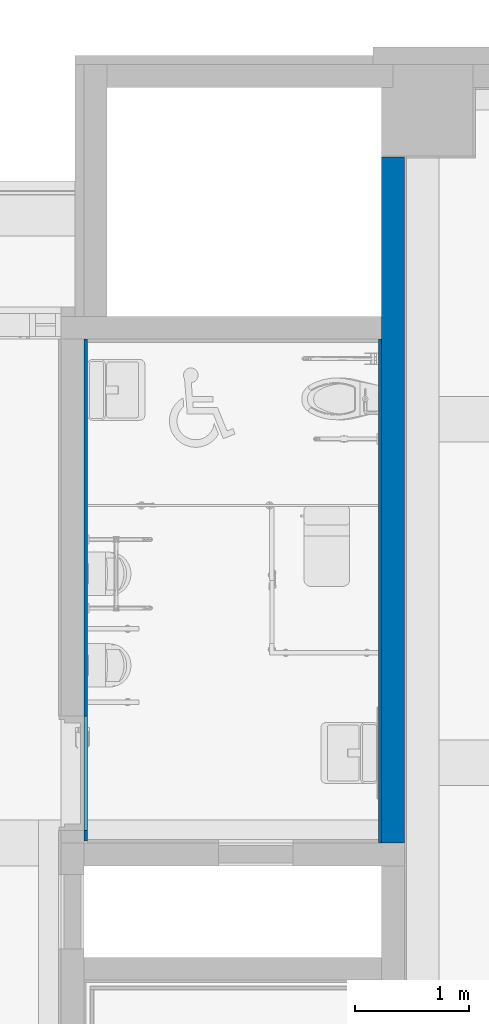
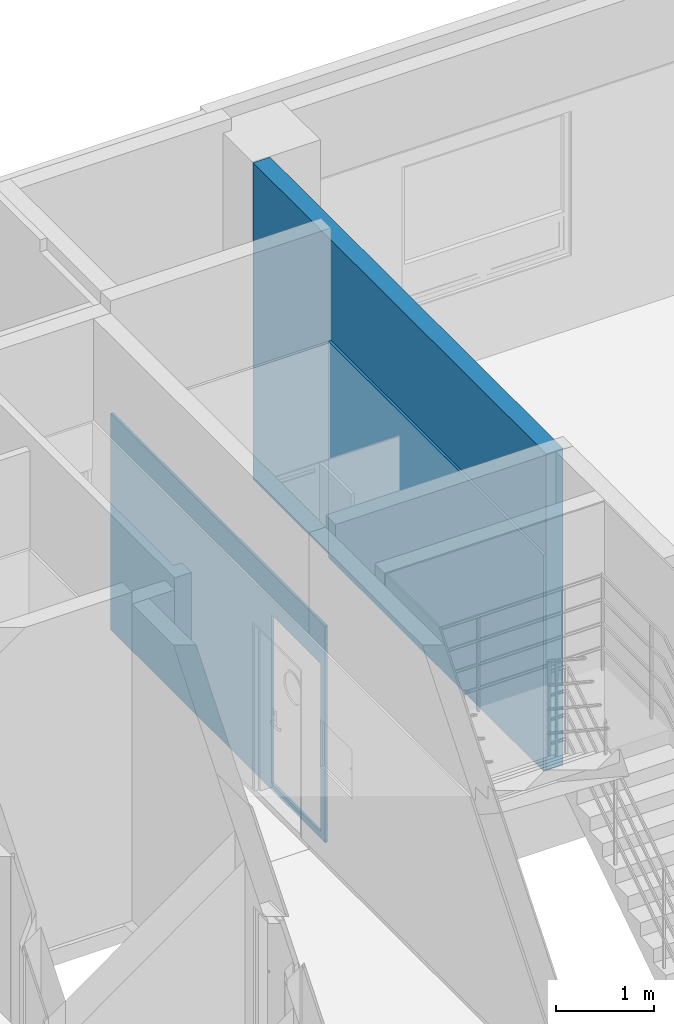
# One storey, part 62 of 81: 3 walls, 1 opening.
"""IFC2X3 building model written with IfcOpenShell, lengths in millimetres."""

from ifc_helpers import new_model, entity, si_unit, converted_unit, derived_unit, direction, frame, frame_2d, origin, place, context, subcontext, project, spatial, polyline, rectangle, extrude, clip, bounded_halfspace, material, layer, layer_set, layer_usage, type_object, element, save


model = new_model("IFC2X3")

# Units and contexts
model_context = context("Model", 3, precision=0.01, world=origin(), true_north=direction((6.123031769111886e-17, 1.0)))
body_context = subcontext(model_context, "Body", "Model", "MODEL_VIEW")
ifc_project = project(units=[si_unit("LENGTHUNIT", "METRE", prefix="MILLI"), si_unit("AREAUNIT", "SQUARE_METRE"), si_unit("VOLUMEUNIT", "CUBIC_METRE"), converted_unit("PLANEANGLEUNIT", "DEGREE", entity("IfcRatioMeasure", 0.017453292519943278), si_unit("PLANEANGLEUNIT", "RADIAN"), dimensions=[0, 0, 0, 0, 0, 0, 0]), si_unit("MASSUNIT", "GRAM", prefix="KILO"), derived_unit("MASSDENSITYUNIT", [(si_unit("MASSUNIT", "GRAM", prefix="KILO"), 1), (si_unit("LENGTHUNIT", "METRE"), -3)]), derived_unit("MOMENTOFINERTIAUNIT", [(si_unit("LENGTHUNIT", "METRE"), 4)]), si_unit("TIMEUNIT", "SECOND"), si_unit("FREQUENCYUNIT", "HERTZ"), si_unit("THERMODYNAMICTEMPERATUREUNIT", "DEGREE_CELSIUS"), derived_unit("THERMALTRANSMITTANCEUNIT", [(si_unit("MASSUNIT", "GRAM", prefix="KILO"), 1), (si_unit("THERMODYNAMICTEMPERATUREUNIT", "KELVIN"), -1), (si_unit("TIMEUNIT", "SECOND"), -3)]), derived_unit("VOLUMETRICFLOWRATEUNIT", [(si_unit("LENGTHUNIT", "METRE"), 3), (si_unit("TIMEUNIT", "SECOND"), -1)]), derived_unit("MASSFLOWRATEUNIT", [(si_unit("MASSUNIT", "GRAM", prefix="KILO"), 1), (si_unit("TIMEUNIT", "SECOND"), -1)]), derived_unit("ROTATIONALFREQUENCYUNIT", [(si_unit("TIMEUNIT", "SECOND"), -1)]), si_unit("ELECTRICCURRENTUNIT", "AMPERE"), si_unit("ELECTRICVOLTAGEUNIT", "VOLT"), si_unit("POWERUNIT", "WATT"), si_unit("FORCEUNIT", "NEWTON", prefix="KILO"), si_unit("ILLUMINANCEUNIT", "LUX"), si_unit("LUMINOUSFLUXUNIT", "LUMEN"), si_unit("LUMINOUSINTENSITYUNIT", "CANDELA"), derived_unit("USERDEFINED", [(si_unit("MASSUNIT", "GRAM", prefix="KILO"), -1), (si_unit("LENGTHUNIT", "METRE"), -2), (si_unit("TIMEUNIT", "SECOND"), 3), (si_unit("LUMINOUSFLUXUNIT", "LUMEN"), 1)]), derived_unit("SOUNDPOWERUNIT", [(si_unit("MASSUNIT", "GRAM", prefix="KILO"), 1), (si_unit("LENGTHUNIT", "METRE"), 2), (si_unit("TIMEUNIT", "SECOND"), -3)]), derived_unit("SOUNDPRESSUREUNIT", [(si_unit("MASSUNIT", "GRAM", prefix="KILO"), 1), (si_unit("LENGTHUNIT", "METRE"), -1), (si_unit("TIMEUNIT", "SECOND"), -2)]), derived_unit("LINEARVELOCITYUNIT", [(si_unit("LENGTHUNIT", "METRE"), 1), (si_unit("TIMEUNIT", "SECOND"), -1)]), si_unit("PRESSUREUNIT", "PASCAL"), derived_unit("USERDEFINED", [(si_unit("LENGTHUNIT", "METRE"), -2), (si_unit("MASSUNIT", "GRAM", prefix="KILO"), 1), (si_unit("TIMEUNIT", "SECOND"), -2)]), derived_unit("LINEARFORCEUNIT", [(si_unit("MASSUNIT", "GRAM", prefix="KILO"), 1), (si_unit("LENGTHUNIT", "METRE"), 1), (si_unit("TIMEUNIT", "SECOND"), -2), (si_unit("LENGTHUNIT", "METRE"), -1)]), derived_unit("PLANARFORCEUNIT", [(si_unit("MASSUNIT", "GRAM", prefix="KILO"), 1), (si_unit("LENGTHUNIT", "METRE"), 1), (si_unit("TIMEUNIT", "SECOND"), -2), (si_unit("LENGTHUNIT", "METRE"), -2)])], contexts=[model_context])

# Site, building, storey
site_placement = place(None, frame((-14167.972527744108, -657.2125860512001, 0.0)))
site = spatial("IfcSite", under=ifc_project, at=site_placement, Name="Default", CompositionType="ELEMENT")
building_placement = place(site_placement, origin())
building = spatial("IfcBuilding", under=site, at=building_placement, Name="Sample Building", CompositionType="ELEMENT")
storey_placement = place(building_placement, frame((0.0, 0.0, 13400.0)))
storey = spatial("IfcBuildingStorey", under=building, at=storey_placement, Name="지상 4층", CompositionType="ELEMENT", Elevation=13400.00000000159)

# Walls
ifc_material_1 = material(Name="KBIMS-콘크리트")
ifc_layer_1 = layer(ifc_material_1, 200.0)
ifc_layer_set_1 = layer_set([ifc_layer_1], Name="기본 벽:WA111-철근콘크리트구조 벽 200mm_CW1")
ifc_layer_usage_1 = layer_usage(ifc_layer_set_1, "AXIS2", "NEGATIVE", 100.0)
wall_type_1 = type_object("IfcWallType", Name="기본 벽:WA111-철근콘크리트구조 벽 200mm_CW1", PredefinedType="STANDARD", material=ifc_layer_set_1)
wall_1_placement = place(storey_placement, frame((40867.963798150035, 28447.212307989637, -2.3000097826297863e-09), z_axis=(0.0, 0.0, 1.0), x_axis=(0.0, -1.0, 0.0)))
element("IfcWallStandardCase", 1, at=wall_1_placement, inside=storey, type_object=wall_type_1, material=ifc_layer_usage_1, Name="기본 벽:WA111-철근콘크리트구조 벽 200mm_CW1", ObjectType="기본 벽:WA111-철근콘크리트구조 벽 200mm_CW1", context=body_context, shape_type="Clipping", body=[
    clip(extrude(rectangle(XDim=5990.000009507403, YDim=199.99999999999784, at=frame_2d((2995.0000047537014, 5.5209170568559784e-12), x_axis=(-1.0, 0.0))), origin(), (0.0, 0.0, 1.0), 3950.0000000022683), bounded_halfspace(frame((0.0, -100.0, 3950.0), z_axis=(0.0, 0.0, -1.0), x_axis=(1.0, 0.0, 0.0)), True, frame((0.0, -100.0, 3950.0), z_axis=(0.0, 0.0, -1.0), x_axis=(1.0, 0.0, 0.0)), polyline([(0.0, 0.0), (0.0, -60960.0), (1825752.0, -60960.0), (1825752.0, 7.796643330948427e-09), (0.0, 0.0)]))),
])
ifc_material_2 = material(Name="WA352-도기질타일 벽 200x200")
ifc_layer_2 = layer(ifc_material_2, 8.0)
ifc_material_3 = material(Name="WA551-시멘트모르타르 (내부) 벽 22mm")
ifc_layer_3 = layer(ifc_material_3, 22.0)
ifc_layer_set_2 = layer_set([ifc_layer_2, ifc_layer_3], Name="기본 벽:A1-33-01B-시멘트 모르타르, 도기질타일 (30mm)")
ifc_layer_usage_2 = layer_usage(ifc_layer_set_2, "AXIS2", "POSITIVE", -15.0)
wall_type_2 = type_object("IfcWallType", Name="기본 벽:A1-33-01B-시멘트 모르타르, 도기질타일 (30mm)", PredefinedType="STANDARD", material=ifc_layer_set_2)
wall_2_placement = place(storey_placement, frame((40752.96379815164, 22457.277511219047, 0.0), z_axis=(0.0, 0.0, 1.0), x_axis=(0.0, 1.0, 0.0)))
element("IfcWallStandardCase", 2, at=wall_2_placement, inside=storey, type_object=wall_type_2, material=ifc_layer_usage_2, Name="기본 벽:A1-33-01B-시멘트 모르타르, 도기질타일 (30mm)", ObjectType="기본 벽:A1-33-01B-시멘트 모르타르, 도기질타일 (30mm)", context=body_context, shape_type="SweptSolid", body=[
    extrude(rectangle(XDim=4399.934783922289, YDim=30.000000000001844, at=frame_2d((2199.9673919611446, -3.2933655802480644e-12), x_axis=(-1.0, 0.0))), origin(), (0.0, 0.0, 1.0), 2700.0000000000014),
])

# Wall, opening
ifc_layer_usage_3 = layer_usage(ifc_layer_set_2, "AXIS2", "NEGATIVE", 15.0)
wall_3_placement = place(storey_placement, frame((38182.96379814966, 22472.27751121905, 0.0), z_axis=(0.0, 0.0, 1.0), x_axis=(0.0, 1.0, 0.0)))
wall_3 = element("IfcWallStandardCase", 3, at=wall_3_placement, inside=storey, type_object=wall_type_2, material=ifc_layer_usage_3, Name="기본 벽:A1-33-01B-시멘트 모르타르, 도기질타일 (30mm)", ObjectType="기본 벽:A1-33-01B-시멘트 모르타르, 도기질타일 (30mm)", context=body_context, shape_type="SweptSolid", body=[
    extrude(rectangle(XDim=4384.934783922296, YDim=30.000000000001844, at=frame_2d((2192.467391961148, -1.048938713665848e-12), x_axis=(-1.0, 0.0))), origin(), (0.0, 0.0, 1.0), 2700.0000000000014),
])
opening_placement = place(wall_3_placement, origin())
element("IfcOpeningElement", 4, at=opening_placement, cuts=wall_3, Name="기본 벽:A1-33-01B-시멘트 모르타르, 도기질타일 (30mm)", ObjectType="Opening", context=body_context, shape_type="SweptSolid", body=[
    extrude(rectangle(XDim=2099.9999999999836, YDim=999.999999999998, at=frame_2d((1.0231815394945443e-12, 0.0), x_axis=(1.0, 0.0))), frame((591.3953069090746, -1309.0, 1130.0), z_axis=(0.0, 1.0, 0.0), x_axis=(0.0, 0.0, 1.0)), (0.0, 0.0, 1.0), 3048.0),
])

save(model, "model.ifc")
